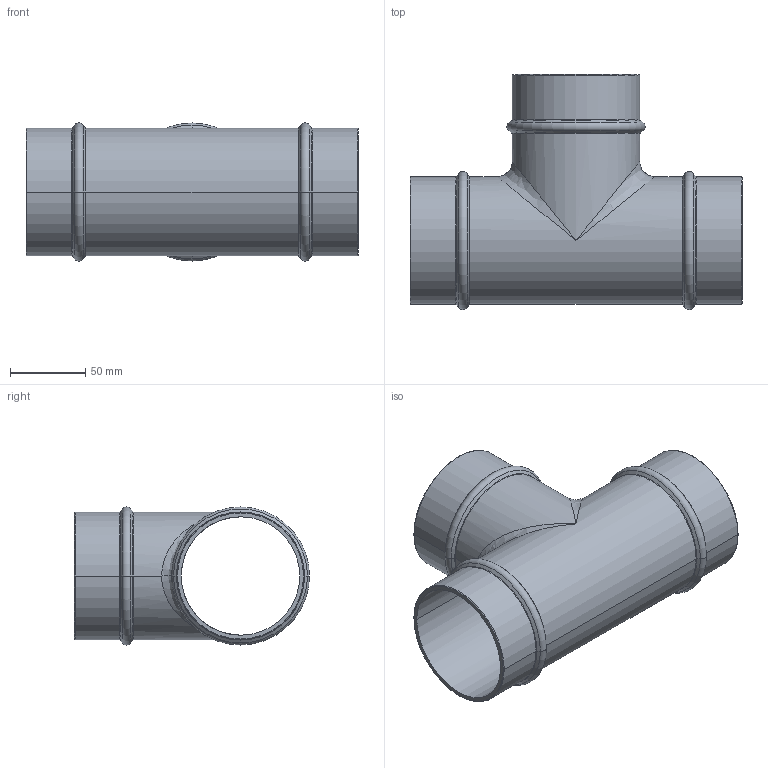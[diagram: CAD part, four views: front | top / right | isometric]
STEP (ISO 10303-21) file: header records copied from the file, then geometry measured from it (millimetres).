
FILE_DESCRIPTION((''),'2;1');
FILE_NAME('2014700500','2017-05-09T',('Administrator'),(''),'PRO/ENGINEER BY PARAMETRIC TECHNOLOGY CORPORATION, 2009360','PRO/ENGINEER BY PARAMETRIC TECHNOLOGY CORPORATION, 2009360','');
FILE_SCHEMA(('AUTOMOTIVE_DESIGN_CC2 { 1 2 10303 214 -1 1 5 2 }'));
Length unit declared in the file: millimetre
Products named in the file (1): 2014700500
Bounding box: 220 x 155.74 x 91.48 mm (x, y, z)
Volume: 232812.3 mm3; surface area: 146898.7 mm2
Topology: 1 solids, 1 shells, 57 faces, 124 edges, 68 vertices
Faces by surface type: torus 24, cylinder 14, cone 12, bspline 4, plane 3
Entity records: 2515 total; most frequent: CARTESIAN_POINT 851, DIRECTION 296, ORIENTED_EDGE 248, AXIS2_PLACEMENT_3D 133, PRESENTATION_STYLE_ASSIGNMENT 125, STYLED_ITEM 125, CURVE_STYLE 124, EDGE_CURVE 124
